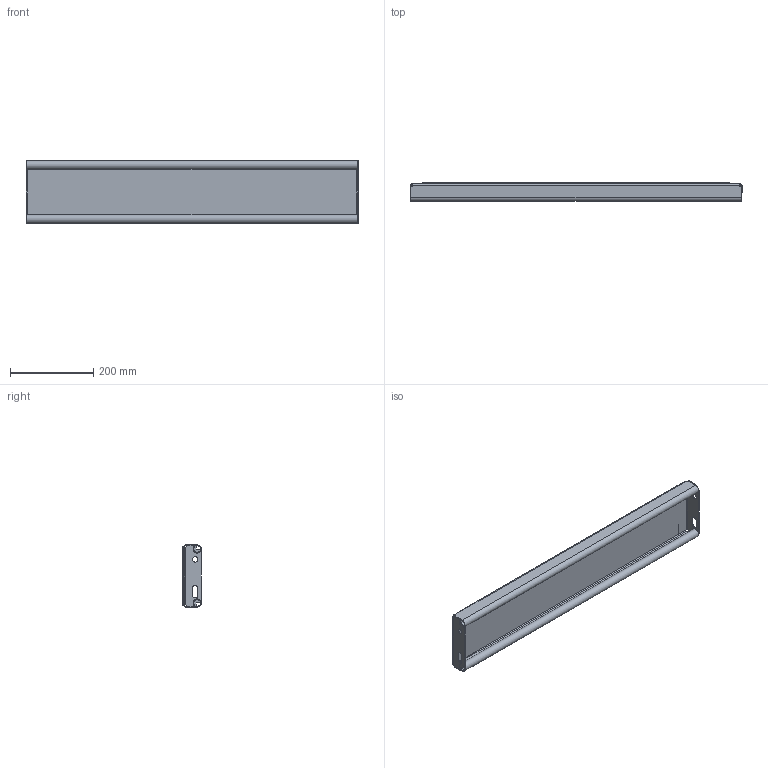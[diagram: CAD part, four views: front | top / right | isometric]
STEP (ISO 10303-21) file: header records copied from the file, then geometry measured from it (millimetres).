
FILE_DESCRIPTION (( 'STEP AP214' ), '1' );
FILE_NAME ('OPTIMO-Tread-Achil-O2-800x150x45x2-st240-F100040100-plain.STEP', '2021-03-15T09:25:03', ( '' ), ( '' ), 'SwSTEP 2.0', 'SolidWorks 2021', '' );
FILE_SCHEMA (( 'AUTOMOTIVE_DESIGN' ));
Length unit declared in the file: millimetre
Products named in the file (1): OPTIMO-Tread-Achil-O2-800x150x45x2-st240-F100040100-plain
Bounding box: 800 x 45 x 150 mm (x, y, z)
Volume: 821234.1 mm3; surface area: 516775.1 mm2
Topology: 1 solids, 1 shells, 247 faces, 637 edges, 410 vertices
Faces by surface type: plane 172, bspline 39, cylinder 36
Entity records: 9731 total; most frequent: CARTESIAN_POINT 3926, ORIENTED_EDGE 1274, DIRECTION 1017, EDGE_CURVE 637, LINE 487, VECTOR 487, VERTEX_POINT 410, EDGE_LOOP 273
